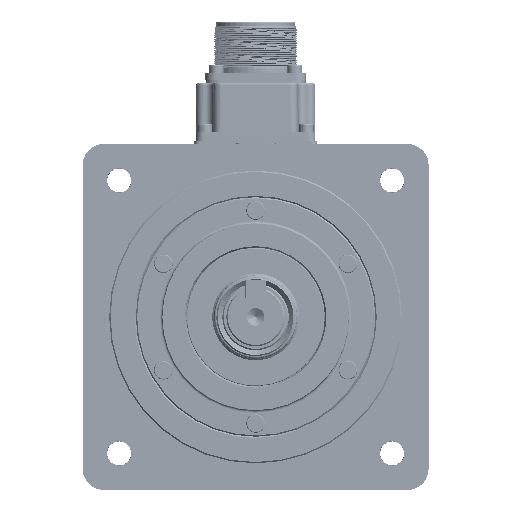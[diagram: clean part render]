
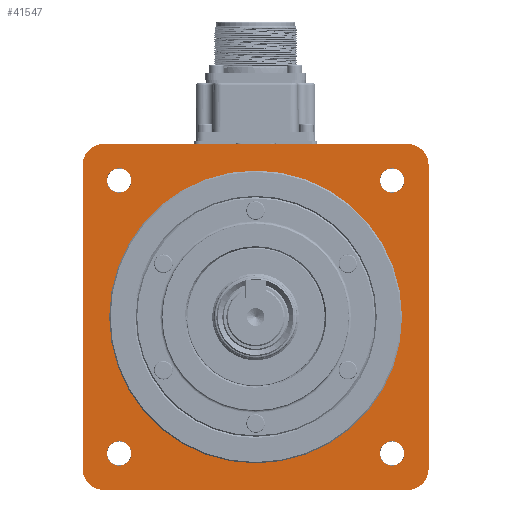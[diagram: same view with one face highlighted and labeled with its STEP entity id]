
A CAD part, front view. The second image highlights one B-rep face of the part: STEP entity #41547.
In plain terms, the highlighted planar face has unit normal (0, -1, 0).
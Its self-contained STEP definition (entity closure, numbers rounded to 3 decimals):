
#1104=LINE('',#59513,#4261);
#1175=LINE('',#62401,#4332);
#1180=LINE('',#62411,#4337);
#1185=LINE('',#62421,#4342);
#4261=VECTOR('',#48120,1000.);
#4332=VECTOR('',#48809,1000.);
#4337=VECTOR('',#48820,1000.);
#4342=VECTOR('',#48831,1000.);
#9007=PLANE('',#44514);
#10955=ORIENTED_EDGE('',*,*,#22014,.F.);
#10956=ORIENTED_EDGE('',*,*,#21980,.F.);
#10957=ORIENTED_EDGE('',*,*,#21977,.T.);
#10958=ORIENTED_EDGE('',*,*,#21986,.F.);
#10959=ORIENTED_EDGE('',*,*,#21983,.T.);
#10960=ORIENTED_EDGE('',*,*,#21992,.F.);
#10961=ORIENTED_EDGE('',*,*,#21989,.T.);
#10962=ORIENTED_EDGE('',*,*,#21993,.F.);
#10963=ORIENTED_EDGE('',*,*,#21629,.T.);
#10964=ORIENTED_EDGE('',*,*,#21936,.F.);
#10965=ORIENTED_EDGE('',*,*,#21947,.F.);
#10966=ORIENTED_EDGE('',*,*,#21957,.F.);
#10967=ORIENTED_EDGE('',*,*,#21927,.F.);
#21629=EDGE_CURVE('',#27322,#27321,#1104,.T.);
#21927=EDGE_CURVE('',#27525,#27525,#31479,.F.);
#21936=EDGE_CURVE('',#27533,#27533,#31485,.F.);
#21947=EDGE_CURVE('',#27543,#27543,#31493,.F.);
#21957=EDGE_CURVE('',#27553,#27553,#31499,.F.);
#21977=EDGE_CURVE('',#27564,#27563,#1175,.T.);
#21980=EDGE_CURVE('',#27564,#27321,#31505,.F.);
#21983=EDGE_CURVE('',#27566,#27565,#1180,.T.);
#21986=EDGE_CURVE('',#27566,#27563,#31506,.F.);
#21989=EDGE_CURVE('',#27568,#27567,#1185,.T.);
#21992=EDGE_CURVE('',#27568,#27565,#31507,.F.);
#21993=EDGE_CURVE('',#27322,#27567,#31508,.F.);
#22014=EDGE_CURVE('',#27581,#27581,#31521,.T.);
#27321=VERTEX_POINT('',#59512);
#27322=VERTEX_POINT('',#59514);
#27525=VERTEX_POINT('',#62297);
#27533=VERTEX_POINT('',#62316);
#27543=VERTEX_POINT('',#62341);
#27553=VERTEX_POINT('',#62363);
#27563=VERTEX_POINT('',#62400);
#27564=VERTEX_POINT('',#62402);
#27565=VERTEX_POINT('',#62410);
#27566=VERTEX_POINT('',#62412);
#27567=VERTEX_POINT('',#62420);
#27568=VERTEX_POINT('',#62422);
#27581=VERTEX_POINT('',#62480);
#31479=CIRCLE('',#44431,4.6);
#31485=CIRCLE('',#44439,4.6);
#31493=CIRCLE('',#44451,4.6);
#31499=CIRCLE('',#44459,4.6);
#31505=CIRCLE('',#44474,8.);
#31506=CIRCLE('',#44477,8.);
#31507=CIRCLE('',#44480,8.);
#31508=CIRCLE('',#44482,8.);
#31521=CIRCLE('',#44513,55.);
#32973=EDGE_LOOP('',(#10955));
#32974=EDGE_LOOP('',(#10956,#10957,#10958,#10959,#10960,#10961,#10962,#10963));
#32975=EDGE_LOOP('',(#10964));
#32976=EDGE_LOOP('',(#10965));
#32977=EDGE_LOOP('',(#10966));
#32978=EDGE_LOOP('',(#10967));
#36477=FACE_BOUND('',#32973,.T.);
#36478=FACE_BOUND('',#32974,.T.);
#36479=FACE_BOUND('',#32975,.T.);
#36480=FACE_BOUND('',#32976,.T.);
#36481=FACE_BOUND('',#32977,.T.);
#36482=FACE_BOUND('',#32978,.T.);
#41547=ADVANCED_FACE('',(#36477,#36478,#36479,#36480,#36481,#36482),#9007,
 .F.);
#44431=AXIS2_PLACEMENT_3D('',#62296,#48701,#48702);
#44439=AXIS2_PLACEMENT_3D('',#62315,#48720,#48721);
#44451=AXIS2_PLACEMENT_3D('',#62340,#48747,#48748);
#44459=AXIS2_PLACEMENT_3D('',#62362,#48767,#48768);
#44474=AXIS2_PLACEMENT_3D('',#62406,#48814,#48815);
#44477=AXIS2_PLACEMENT_3D('',#62416,#48825,#48826);
#44480=AXIS2_PLACEMENT_3D('',#62426,#48836,#48837);
#44482=AXIS2_PLACEMENT_3D('',#62428,#48840,#48841);
#44513=AXIS2_PLACEMENT_3D('',#62479,#48910,#48911);
#44514=AXIS2_PLACEMENT_3D('',#62481,#48912,#48913);
#48120=DIRECTION('',(-1.,0.,0.));
#48701=DIRECTION('',(0.,1.,0.));
#48702=DIRECTION('',(0.,0.,1.));
#48720=DIRECTION('',(0.,1.,0.));
#48721=DIRECTION('',(0.,0.,1.));
#48747=DIRECTION('',(0.,1.,0.));
#48748=DIRECTION('',(0.,0.,1.));
#48767=DIRECTION('',(0.,1.,0.));
#48768=DIRECTION('',(0.,0.,1.));
#48809=DIRECTION('',(0.,0.,-1.));
#48814=DIRECTION('',(0.,-1.,0.));
#48815=DIRECTION('',(0.,0.,-1.));
#48820=DIRECTION('',(1.,0.,0.));
#48825=DIRECTION('',(0.,-1.,0.));
#48826=DIRECTION('',(0.,0.,-1.));
#48831=DIRECTION('',(0.,0.,1.));
#48836=DIRECTION('',(0.,-1.,0.));
#48837=DIRECTION('',(0.,0.,-1.));
#48840=DIRECTION('',(0.,-1.,0.));
#48841=DIRECTION('',(0.,0.,-1.));
#48910=DIRECTION('',(0.,-1.,0.));
#48911=DIRECTION('',(0.,0.,-1.));
#48912=DIRECTION('',(0.,1.,0.));
#48913=DIRECTION('',(0.,0.,1.));
#59512=CARTESIAN_POINT('',(-57.,1.2,65.));
#59513=CARTESIAN_POINT('',(65.,1.2,65.));
#59514=CARTESIAN_POINT('',(57.,1.2,65.));
#62296=CARTESIAN_POINT('',(51.265,1.2,51.265));
#62297=CARTESIAN_POINT('',(51.265,1.2,55.866));
#62315=CARTESIAN_POINT('',(-51.265,1.2,51.265));
#62316=CARTESIAN_POINT('',(-51.265,1.2,55.866));
#62340=CARTESIAN_POINT('',(-51.265,1.2,-51.265));
#62341=CARTESIAN_POINT('',(-51.265,1.2,-46.665));
#62362=CARTESIAN_POINT('',(51.265,1.2,-51.265));
#62363=CARTESIAN_POINT('',(51.265,1.2,-46.665));
#62400=CARTESIAN_POINT('',(-65.,1.2,-57.));
#62401=CARTESIAN_POINT('',(-65.,1.2,65.));
#62402=CARTESIAN_POINT('',(-65.,1.2,57.));
#62406=CARTESIAN_POINT('',(-57.,1.2,57.));
#62410=CARTESIAN_POINT('',(57.,1.2,-65.));
#62411=CARTESIAN_POINT('',(-65.,1.2,-65.));
#62412=CARTESIAN_POINT('',(-57.,1.2,-65.));
#62416=CARTESIAN_POINT('',(-57.,1.2,-57.));
#62420=CARTESIAN_POINT('',(65.,1.2,57.));
#62421=CARTESIAN_POINT('',(65.,1.2,-65.));
#62422=CARTESIAN_POINT('',(65.,1.2,-57.));
#62426=CARTESIAN_POINT('',(57.,1.2,-57.));
#62428=CARTESIAN_POINT('',(57.,1.2,57.));
#62479=CARTESIAN_POINT('',(0.,1.2,0.));
#62480=CARTESIAN_POINT('',(0.,1.2,-55.));
#62481=CARTESIAN_POINT('',(0.,1.2,55.));
